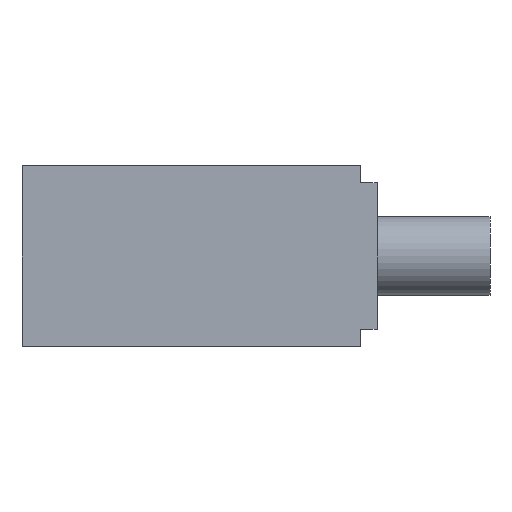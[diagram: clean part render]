
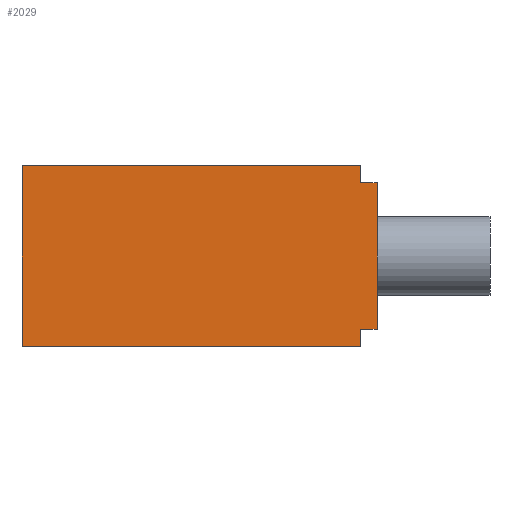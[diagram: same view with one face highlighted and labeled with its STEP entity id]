
A CAD part, front view. The second image highlights one B-rep face of the part: STEP entity #2029.
In plain terms, the highlighted planar face has unit normal (0, -1, 0) as drawn and (0, 0, -1) by its records, which use the part's own axes.
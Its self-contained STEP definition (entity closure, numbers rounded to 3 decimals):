
#120=LINE('',#3324,#234);
#124=LINE('',#3335,#238);
#132=LINE('',#3350,#246);
#164=LINE('',#3453,#278);
#180=LINE('',#3498,#294);
#196=LINE('',#3531,#310);
#199=LINE('',#3536,#313);
#200=LINE('',#3538,#314);
#234=VECTOR('',#2625,13.);
#238=VECTOR('',#2633,1.5);
#246=VECTOR('',#2641,1.5);
#278=VECTOR('',#2745,30.);
#294=VECTOR('',#2789,16.);
#310=VECTOR('',#2827,30.);
#313=VECTOR('',#2834,1.5);
#314=VECTOR('',#2837,1.5);
#373=PLANE('',#2263);
#618=FACE_OUTER_BOUND('',#776,.T.);
#776=EDGE_LOOP('',(#1864,#1865,#1866,#1867,#1868,#1869,#1870,#1871));
#991=VERTEX_POINT('',#3321);
#992=VERTEX_POINT('',#3323);
#994=VERTEX_POINT('',#3328);
#996=VERTEX_POINT('',#3332);
#997=VERTEX_POINT('',#3334);
#1004=VERTEX_POINT('',#3348);
#1039=VERTEX_POINT('',#3451);
#1054=VERTEX_POINT('',#3496);
#1227=EDGE_CURVE('',#992,#991,#120,.T.);
#1232=EDGE_CURVE('',#997,#996,#124,.T.);
#1240=EDGE_CURVE('',#994,#1004,#132,.T.);
#1289=EDGE_CURVE('',#1004,#1039,#164,.T.);
#1311=EDGE_CURVE('',#1054,#1039,#180,.T.);
#1328=EDGE_CURVE('',#1054,#997,#196,.T.);
#1331=EDGE_CURVE('',#996,#992,#199,.T.);
#1332=EDGE_CURVE('',#994,#991,#200,.T.);
#1864=ORIENTED_EDGE('',*,*,#1227,.T.);
#1865=ORIENTED_EDGE('',*,*,#1332,.F.);
#1866=ORIENTED_EDGE('',*,*,#1240,.T.);
#1867=ORIENTED_EDGE('',*,*,#1289,.T.);
#1868=ORIENTED_EDGE('',*,*,#1311,.F.);
#1869=ORIENTED_EDGE('',*,*,#1328,.T.);
#1870=ORIENTED_EDGE('',*,*,#1232,.T.);
#1871=ORIENTED_EDGE('',*,*,#1331,.T.);
#2029=ADVANCED_FACE('',(#618),#373,.T.);
#2263=AXIS2_PLACEMENT_3D('',#3537,#2835,#2836);
#2625=DIRECTION('',(0.,-1.,0.));
#2633=DIRECTION('',(0.,-1.,0.));
#2641=DIRECTION('',(0.,-1.,0.));
#2745=DIRECTION('',(-1.,0.,0.));
#2789=DIRECTION('',(0.,-1.,0.));
#2827=DIRECTION('',(1.,0.,0.));
#2834=DIRECTION('',(1.,0.,0.));
#2835=DIRECTION('center_axis',(0.,0.,-1.));
#2836=DIRECTION('ref_axis',(-1.,0.,0.));
#2837=DIRECTION('',(1.,0.,0.));
#3321=CARTESIAN_POINT('',(16.5,-14.5,-40.));
#3323=CARTESIAN_POINT('',(16.5,-1.5,-40.));
#3324=CARTESIAN_POINT('',(16.5,-1.5,-40.));
#3328=CARTESIAN_POINT('',(15.,-14.5,-40.));
#3332=CARTESIAN_POINT('',(15.,-1.5,-40.));
#3334=CARTESIAN_POINT('',(15.,0.,-40.));
#3335=CARTESIAN_POINT('',(15.,0.,-40.));
#3348=CARTESIAN_POINT('',(15.,-16.,-40.));
#3350=CARTESIAN_POINT('',(15.,-14.5,-40.));
#3451=CARTESIAN_POINT('',(-15.,-16.,-40.));
#3453=CARTESIAN_POINT('',(15.,-16.,-40.));
#3496=CARTESIAN_POINT('',(-15.,0.,-40.));
#3498=CARTESIAN_POINT('',(-15.,0.,-40.));
#3531=CARTESIAN_POINT('',(-15.,0.,-40.));
#3536=CARTESIAN_POINT('',(15.,-1.5,-40.));
#3537=CARTESIAN_POINT('Origin',(15.,-1.5,-40.));
#3538=CARTESIAN_POINT('',(15.,-14.5,-40.));
